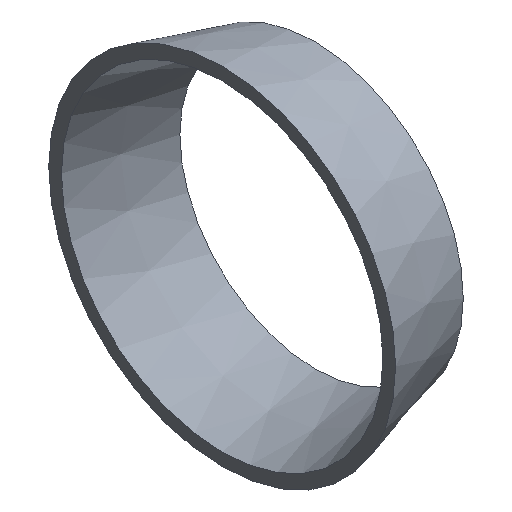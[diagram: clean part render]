
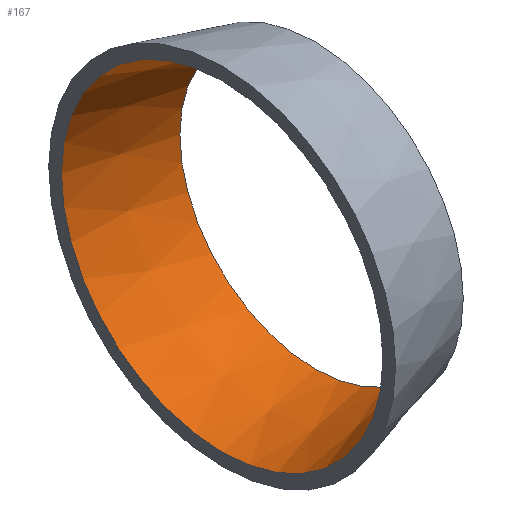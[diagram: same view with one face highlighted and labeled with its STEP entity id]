
A CAD part, isometric view. The second image highlights one B-rep face of the part: STEP entity #167.
In plain terms, the highlighted conical face has half-angle 15.255 degrees and reference radius 19 mm.
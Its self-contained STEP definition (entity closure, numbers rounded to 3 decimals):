
#43 = PLANE('',#44);
#44 = AXIS2_PLACEMENT_3D('',#45,#46,#47);
#45 = CARTESIAN_POINT('',(0.,0.,0.));
#46 = DIRECTION('',(1.,0.,0.));
#47 = DIRECTION('',(0.,1.,0.));
#90 = PLANE('',#91);
#91 = AXIS2_PLACEMENT_3D('',#92,#93,#94);
#92 = CARTESIAN_POINT('',(11.,0.,0.));
#93 = DIRECTION('',(1.,0.,0.));
#94 = DIRECTION('',(0.,1.,0.));
#109 = EDGE_CURVE('',#110,#110,#112,.T.);
#110 = VERTEX_POINT('',#111);
#111 = CARTESIAN_POINT('',(0.,19.,0.));
#112 = SURFACE_CURVE('',#113,(#118,#125),.PCURVE_S1.);
#113 = CIRCLE('',#114,19.);
#114 = AXIS2_PLACEMENT_3D('',#115,#116,#117);
#115 = CARTESIAN_POINT('',(0.,0.,0.));
#116 = DIRECTION('',(1.,0.,0.));
#117 = DIRECTION('',(0.,1.,0.));
#118 = PCURVE('',#43,#119);
#119 = DEFINITIONAL_REPRESENTATION('',(#120),#124);
#120 = CIRCLE('',#121,19.);
#121 = AXIS2_PLACEMENT_2D('',#122,#123);
#122 = CARTESIAN_POINT('',(0.,0.));
#123 = DIRECTION('',(1.,0.));
#124 = ( GEOMETRIC_REPRESENTATION_CONTEXT(2) 
PARAMETRIC_REPRESENTATION_CONTEXT() REPRESENTATION_CONTEXT('2D SPACE',''
  ) );
#125 = PCURVE('',#126,#131);
#126 = CONICAL_SURFACE('',#127,19.,0.266);
#127 = AXIS2_PLACEMENT_3D('',#128,#129,#130);
#128 = CARTESIAN_POINT('',(0.,0.,0.));
#129 = DIRECTION('',(-1.,-0.,-0.));
#130 = DIRECTION('',(0.,1.,0.));
#131 = DEFINITIONAL_REPRESENTATION('',(#132),#136);
#132 = LINE('',#133,#134);
#133 = CARTESIAN_POINT('',(-0.,-0.));
#134 = VECTOR('',#135,1.);
#135 = DIRECTION('',(-1.,-0.));
#136 = ( GEOMETRIC_REPRESENTATION_CONTEXT(2) 
PARAMETRIC_REPRESENTATION_CONTEXT() REPRESENTATION_CONTEXT('2D SPACE',''
  ) );
#144 = EDGE_CURVE('',#145,#145,#147,.T.);
#145 = VERTEX_POINT('',#146);
#146 = CARTESIAN_POINT('',(11.,16.,0.));
#147 = SURFACE_CURVE('',#148,(#153,#160),.PCURVE_S1.);
#148 = CIRCLE('',#149,16.);
#149 = AXIS2_PLACEMENT_3D('',#150,#151,#152);
#150 = CARTESIAN_POINT('',(11.,0.,0.));
#151 = DIRECTION('',(1.,0.,0.));
#152 = DIRECTION('',(0.,1.,0.));
#153 = PCURVE('',#90,#154);
#154 = DEFINITIONAL_REPRESENTATION('',(#155),#159);
#155 = CIRCLE('',#156,16.);
#156 = AXIS2_PLACEMENT_2D('',#157,#158);
#157 = CARTESIAN_POINT('',(0.,0.));
#158 = DIRECTION('',(1.,0.));
#159 = ( GEOMETRIC_REPRESENTATION_CONTEXT(2) 
PARAMETRIC_REPRESENTATION_CONTEXT() REPRESENTATION_CONTEXT('2D SPACE',''
  ) );
#160 = PCURVE('',#126,#161);
#161 = DEFINITIONAL_REPRESENTATION('',(#162),#166);
#162 = LINE('',#163,#164);
#163 = CARTESIAN_POINT('',(-0.,-11.));
#164 = VECTOR('',#165,1.);
#165 = DIRECTION('',(-1.,-0.));
#166 = ( GEOMETRIC_REPRESENTATION_CONTEXT(2) 
PARAMETRIC_REPRESENTATION_CONTEXT() REPRESENTATION_CONTEXT('2D SPACE',''
  ) );
#167 = ADVANCED_FACE('',(#168),#126,.F.);
#168 = FACE_BOUND('',#169,.F.);
#169 = EDGE_LOOP('',(#170,#188,#189,#190));
#170 = ORIENTED_EDGE('',*,*,#171,.F.);
#171 = EDGE_CURVE('',#110,#145,#172,.T.);
#172 = SEAM_CURVE('',#173,(#176,#182),.PCURVE_S1.);
#173 = B_SPLINE_CURVE_WITH_KNOTS('',1,(#174,#175),.UNSPECIFIED.,.F.,.F.,
  (2,2),(0.,1.),.PIECEWISE_BEZIER_KNOTS.);
#174 = CARTESIAN_POINT('',(0.,19.,0.));
#175 = CARTESIAN_POINT('',(11.,16.,0.));
#176 = PCURVE('',#126,#177);
#177 = DEFINITIONAL_REPRESENTATION('',(#178),#181);
#178 = B_SPLINE_CURVE_WITH_KNOTS('',1,(#179,#180),.UNSPECIFIED.,.F.,.F.,
  (2,2),(0.,1.),.PIECEWISE_BEZIER_KNOTS.);
#179 = CARTESIAN_POINT('',(0.,0.));
#180 = CARTESIAN_POINT('',(0.,-11.));
#181 = ( GEOMETRIC_REPRESENTATION_CONTEXT(2) 
PARAMETRIC_REPRESENTATION_CONTEXT() REPRESENTATION_CONTEXT('2D SPACE',''
  ) );
#182 = PCURVE('',#126,#183);
#183 = DEFINITIONAL_REPRESENTATION('',(#184),#187);
#184 = B_SPLINE_CURVE_WITH_KNOTS('',1,(#185,#186),.UNSPECIFIED.,.F.,.F.,
  (2,2),(0.,1.),.PIECEWISE_BEZIER_KNOTS.);
#185 = CARTESIAN_POINT('',(-6.283,0.));
#186 = CARTESIAN_POINT('',(-6.283,-11.));
#187 = ( GEOMETRIC_REPRESENTATION_CONTEXT(2) 
PARAMETRIC_REPRESENTATION_CONTEXT() REPRESENTATION_CONTEXT('2D SPACE',''
  ) );
#188 = ORIENTED_EDGE('',*,*,#109,.T.);
#189 = ORIENTED_EDGE('',*,*,#171,.T.);
#190 = ORIENTED_EDGE('',*,*,#144,.F.);
